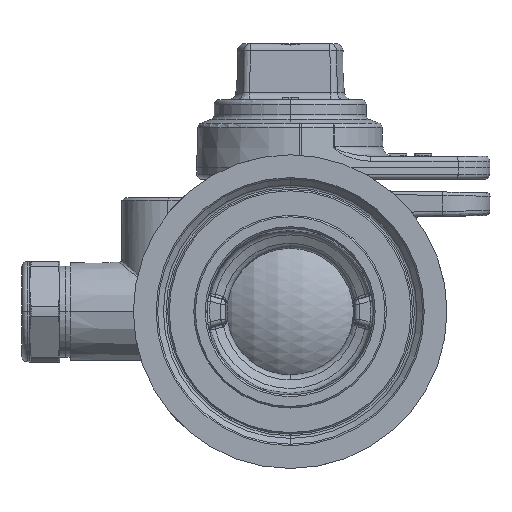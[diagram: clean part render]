
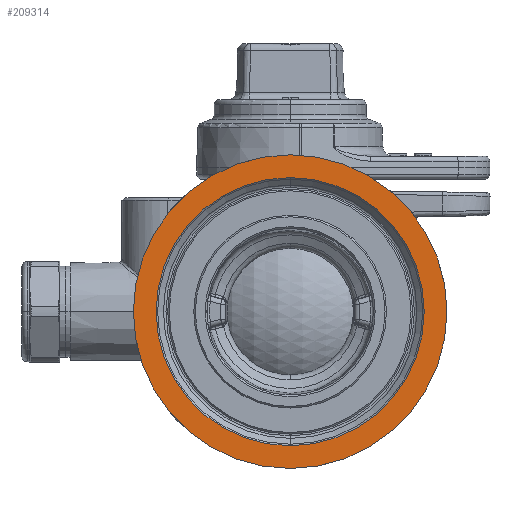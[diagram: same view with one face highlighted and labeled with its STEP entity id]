
A CAD part, left-side view. The second image highlights one B-rep face of the part: STEP entity #209314.
In plain terms, the highlighted planar face has unit normal (-1, 0, 0).
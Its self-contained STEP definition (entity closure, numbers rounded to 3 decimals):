
#200831 = CYLINDRICAL_SURFACE('',#200832,31.);
#200832 = AXIS2_PLACEMENT_3D('',#200833,#200834,#200835);
#200833 = CARTESIAN_POINT('',(-74.3,-26.413,-6.592));
#200834 = DIRECTION('',(1.,0.,0.));
#200835 = DIRECTION('',(0.,-1.,0.));
#209112 = CONICAL_SURFACE('',#209113,25.775,0.785);
#209113 = AXIS2_PLACEMENT_3D('',#209114,#209115,#209116);
#209114 = CARTESIAN_POINT('',(-72.575,-26.413,-6.592));
#209115 = DIRECTION('',(-1.,0.,0.));
#209116 = DIRECTION('',(0.,0.,1.));
#209186 = CONICAL_SURFACE('',#209187,25.775,0.785);
#209187 = AXIS2_PLACEMENT_3D('',#209188,#209189,#209190);
#209188 = CARTESIAN_POINT('',(-72.575,-26.413,-6.592));
#209189 = DIRECTION('',(-1.,0.,0.));
#209190 = DIRECTION('',(0.,0.,1.));
#209210 = VERTEX_POINT('',#209211);
#209211 = CARTESIAN_POINT('',(-73.3,-26.413,19.908));
#209232 = EDGE_CURVE('',#209210,#209233,#209235,.T.);
#209233 = VERTEX_POINT('',#209234);
#209234 = CARTESIAN_POINT('',(-73.3,-26.413,-33.092));
#209235 = SURFACE_CURVE('',#209236,(#209241,#209248),.PCURVE_S1.);
#209236 = CIRCLE('',#209237,26.5);
#209237 = AXIS2_PLACEMENT_3D('',#209238,#209239,#209240);
#209238 = CARTESIAN_POINT('',(-73.3,-26.413,-6.592));
#209239 = DIRECTION('',(1.,0.,0.));
#209240 = DIRECTION('',(0.,0.,1.));
#209241 = PCURVE('',#209186,#209242);
#209242 = DEFINITIONAL_REPRESENTATION('',(#209243),#209247);
#209243 = LINE('',#209244,#209245);
#209244 = CARTESIAN_POINT('',(6.283,0.725));
#209245 = VECTOR('',#209246,1.);
#209246 = DIRECTION('',(-1.,0.));
#209247 = ( GEOMETRIC_REPRESENTATION_CONTEXT(2) 
PARAMETRIC_REPRESENTATION_CONTEXT() REPRESENTATION_CONTEXT('2D SPACE',''
  ) );
#209248 = PCURVE('',#209249,#209254);
#209249 = PLANE('',#209250);
#209250 = AXIS2_PLACEMENT_3D('',#209251,#209252,#209253);
#209251 = CARTESIAN_POINT('',(-73.3,-26.413,-6.592));
#209252 = DIRECTION('',(-1.,0.,0.));
#209253 = DIRECTION('',(0.,0.,1.));
#209254 = DEFINITIONAL_REPRESENTATION('',(#209255),#209263);
#209255 = ( BOUNDED_CURVE() B_SPLINE_CURVE(2,(#209256,#209257,#209258,
    #209259,#209260,#209261,#209262),.UNSPECIFIED.,.T.,.F.) 
B_SPLINE_CURVE_WITH_KNOTS((1,2,2,2,2,1),(-2.094,0.,
    2.094,4.189,6.283,8.378),
.UNSPECIFIED.) CURVE() GEOMETRIC_REPRESENTATION_ITEM() 
RATIONAL_B_SPLINE_CURVE((1.,0.5,1.,0.5,1.,0.5,1.)) REPRESENTATION_ITEM(
  '') );
#209256 = CARTESIAN_POINT('',(26.5,0.));
#209257 = CARTESIAN_POINT('',(26.5,-45.899));
#209258 = CARTESIAN_POINT('',(-13.25,-22.95));
#209259 = CARTESIAN_POINT('',(-53.,0.));
#209260 = CARTESIAN_POINT('',(-13.25,22.95));
#209261 = CARTESIAN_POINT('',(26.5,45.899));
#209262 = CARTESIAN_POINT('',(26.5,0.));
#209263 = ( GEOMETRIC_REPRESENTATION_CONTEXT(2) 
PARAMETRIC_REPRESENTATION_CONTEXT() REPRESENTATION_CONTEXT('2D SPACE',''
  ) );
#209290 = EDGE_CURVE('',#209210,#209233,#209291,.T.);
#209291 = SURFACE_CURVE('',#209292,(#209297,#209304),.PCURVE_S1.);
#209292 = CIRCLE('',#209293,26.5);
#209293 = AXIS2_PLACEMENT_3D('',#209294,#209295,#209296);
#209294 = CARTESIAN_POINT('',(-73.3,-26.413,-6.592));
#209295 = DIRECTION('',(-1.,0.,0.));
#209296 = DIRECTION('',(0.,0.,1.));
#209297 = PCURVE('',#209112,#209298);
#209298 = DEFINITIONAL_REPRESENTATION('',(#209299),#209303);
#209299 = LINE('',#209300,#209301);
#209300 = CARTESIAN_POINT('',(0.,0.725));
#209301 = VECTOR('',#209302,1.);
#209302 = DIRECTION('',(1.,0.));
#209303 = ( GEOMETRIC_REPRESENTATION_CONTEXT(2) 
PARAMETRIC_REPRESENTATION_CONTEXT() REPRESENTATION_CONTEXT('2D SPACE',''
  ) );
#209304 = PCURVE('',#209249,#209305);
#209305 = DEFINITIONAL_REPRESENTATION('',(#209306),#209310);
#209306 = CIRCLE('',#209307,26.5);
#209307 = AXIS2_PLACEMENT_2D('',#209308,#209309);
#209308 = CARTESIAN_POINT('',(0.,0.));
#209309 = DIRECTION('',(1.,0.));
#209310 = ( GEOMETRIC_REPRESENTATION_CONTEXT(2) 
PARAMETRIC_REPRESENTATION_CONTEXT() REPRESENTATION_CONTEXT('2D SPACE',''
  ) );
#209314 = ADVANCED_FACE('',(#209315,#209370),#209249,.T.);
#209315 = FACE_BOUND('',#209316,.T.);
#209316 = EDGE_LOOP('',(#209317,#209343));
#209317 = ORIENTED_EDGE('',*,*,#209318,.T.);
#209318 = EDGE_CURVE('',#209319,#209321,#209323,.T.);
#209319 = VERTEX_POINT('',#209320);
#209320 = CARTESIAN_POINT('',(-73.3,-57.413,-6.592));
#209321 = VERTEX_POINT('',#209322);
#209322 = CARTESIAN_POINT('',(-73.3,4.587,-6.592));
#209323 = SURFACE_CURVE('',#209324,(#209329,#209336),.PCURVE_S1.);
#209324 = CIRCLE('',#209325,31.);
#209325 = AXIS2_PLACEMENT_3D('',#209326,#209327,#209328);
#209326 = CARTESIAN_POINT('',(-73.3,-26.413,-6.592));
#209327 = DIRECTION('',(-1.,0.,0.));
#209328 = DIRECTION('',(-0.,-1.,0.));
#209329 = PCURVE('',#209249,#209330);
#209330 = DEFINITIONAL_REPRESENTATION('',(#209331),#209335);
#209331 = CIRCLE('',#209332,31.);
#209332 = AXIS2_PLACEMENT_2D('',#209333,#209334);
#209333 = CARTESIAN_POINT('',(0.,0.));
#209334 = DIRECTION('',(0.,-1.));
#209335 = ( GEOMETRIC_REPRESENTATION_CONTEXT(2) 
PARAMETRIC_REPRESENTATION_CONTEXT() REPRESENTATION_CONTEXT('2D SPACE',''
  ) );
#209336 = PCURVE('',#200831,#209337);
#209337 = DEFINITIONAL_REPRESENTATION('',(#209338),#209342);
#209338 = LINE('',#209339,#209340);
#209339 = CARTESIAN_POINT('',(6.283,1.));
#209340 = VECTOR('',#209341,1.);
#209341 = DIRECTION('',(-1.,0.));
#209342 = ( GEOMETRIC_REPRESENTATION_CONTEXT(2) 
PARAMETRIC_REPRESENTATION_CONTEXT() REPRESENTATION_CONTEXT('2D SPACE',''
  ) );
#209343 = ORIENTED_EDGE('',*,*,#209344,.T.);
#209344 = EDGE_CURVE('',#209321,#209319,#209345,.T.);
#209345 = SURFACE_CURVE('',#209346,(#209351,#209358),.PCURVE_S1.);
#209346 = CIRCLE('',#209347,31.);
#209347 = AXIS2_PLACEMENT_3D('',#209348,#209349,#209350);
#209348 = CARTESIAN_POINT('',(-73.3,-26.413,-6.592));
#209349 = DIRECTION('',(-1.,0.,0.));
#209350 = DIRECTION('',(0.,1.,0.));
#209351 = PCURVE('',#209249,#209352);
#209352 = DEFINITIONAL_REPRESENTATION('',(#209353),#209357);
#209353 = CIRCLE('',#209354,31.);
#209354 = AXIS2_PLACEMENT_2D('',#209355,#209356);
#209355 = CARTESIAN_POINT('',(0.,0.));
#209356 = DIRECTION('',(0.,1.));
#209357 = ( GEOMETRIC_REPRESENTATION_CONTEXT(2) 
PARAMETRIC_REPRESENTATION_CONTEXT() REPRESENTATION_CONTEXT('2D SPACE',''
  ) );
#209358 = PCURVE('',#209359,#209364);
#209359 = CYLINDRICAL_SURFACE('',#209360,31.);
#209360 = AXIS2_PLACEMENT_3D('',#209361,#209362,#209363);
#209361 = CARTESIAN_POINT('',(-74.3,-26.413,-6.592));
#209362 = DIRECTION('',(1.,0.,0.));
#209363 = DIRECTION('',(0.,-1.,0.));
#209364 = DEFINITIONAL_REPRESENTATION('',(#209365),#209369);
#209365 = LINE('',#209366,#209367);
#209366 = CARTESIAN_POINT('',(3.142,1.));
#209367 = VECTOR('',#209368,1.);
#209368 = DIRECTION('',(-1.,0.));
#209369 = ( GEOMETRIC_REPRESENTATION_CONTEXT(2) 
PARAMETRIC_REPRESENTATION_CONTEXT() REPRESENTATION_CONTEXT('2D SPACE',''
  ) );
#209370 = FACE_BOUND('',#209371,.T.);
#209371 = EDGE_LOOP('',(#209372,#209373));
#209372 = ORIENTED_EDGE('',*,*,#209232,.T.);
#209373 = ORIENTED_EDGE('',*,*,#209290,.F.);
